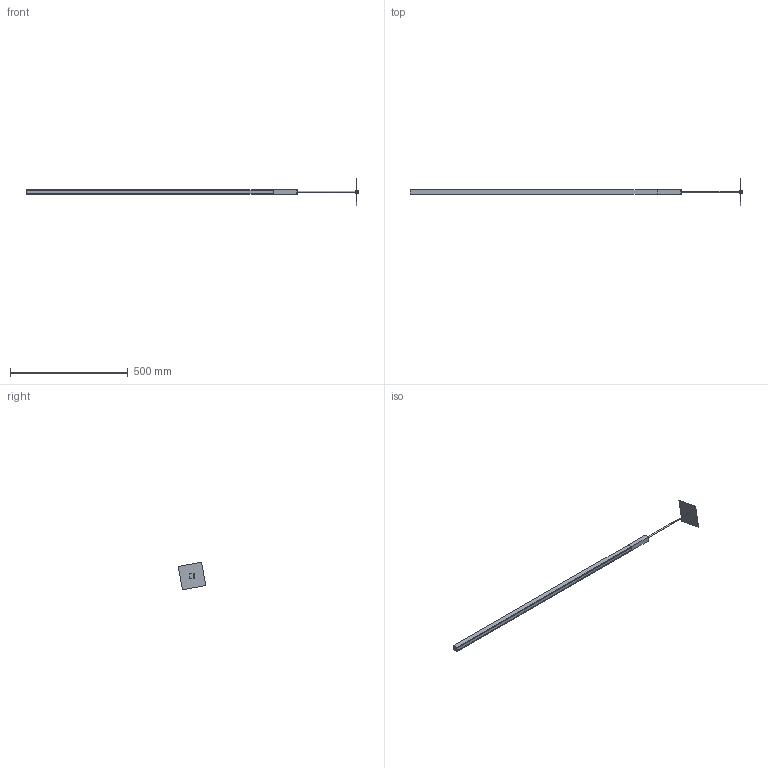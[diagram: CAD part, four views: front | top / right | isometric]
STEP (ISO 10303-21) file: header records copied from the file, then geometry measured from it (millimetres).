
FILE_DESCRIPTION (( 'STEP AP214' ), '1' );
FILE_NAME ('3D_LINESCAPES_RECESSED.STEP', '2018-04-09T10:29:54', ( 'Utente' ), ( '' ), 'SwSTEP 2.0', 'SolidWorks 2016', '' );
FILE_SCHEMA (( 'AUTOMOTIVE_DESIGN' ));
Length unit declared in the file: millimetre
Products named in the file (6): diffusoreMM-1^3D_LINESCAPES_RECESSED; cavo 250mmMM-1^3D_LINESCAPES_RECESSED; 052SPI700400_Innesto foro allargatoMM-6^3D_LINESCAPES_RECESSED; Group5^3D_LINESCAPES_RECESSED; Group1^3D_LINESCAPES_RECESSED; 3D_LINESCAPES_RECESSED
Assembly tree (5 placements, depth 2):
  3D_LINESCAPES_RECESSED
    Group1^3D_LINESCAPES_RECESSED
    Group5^3D_LINESCAPES_RECESSED
    052SPI700400_Innesto foro allargatoMM-6^3D_LINESCAPES_RECESSED
    cavo 250mmMM-1^3D_LINESCAPES_RECESSED
    diffusoreMM-1^3D_LINESCAPES_RECESSED
Bounding box: 1407 x 115.96 x 115.96 mm (x, y, z)
Volume: 487233.5 mm3; surface area: 168482.5 mm2
Topology: 6 solids, 6 shells, 84 faces, 187 edges, 118 vertices
Faces by surface type: plane 60, cylinder 22, cone 2
Entity records: 2833 total; most frequent: CARTESIAN_POINT 421, DIRECTION 393, ORIENTED_EDGE 374, EDGE_CURVE 187, LINE 149, VECTOR 149, AXIS2_PLACEMENT_3D 122, VERTEX_POINT 118
